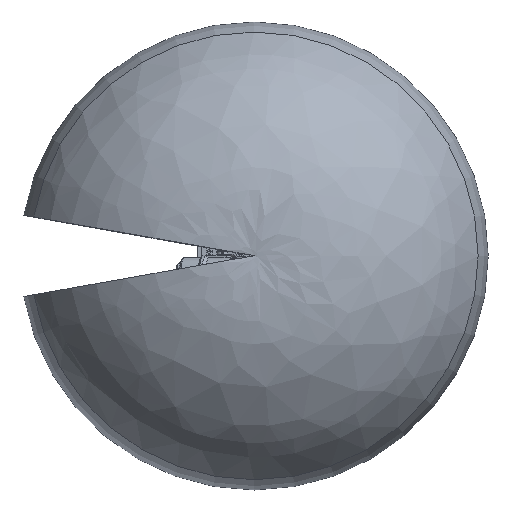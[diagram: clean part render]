
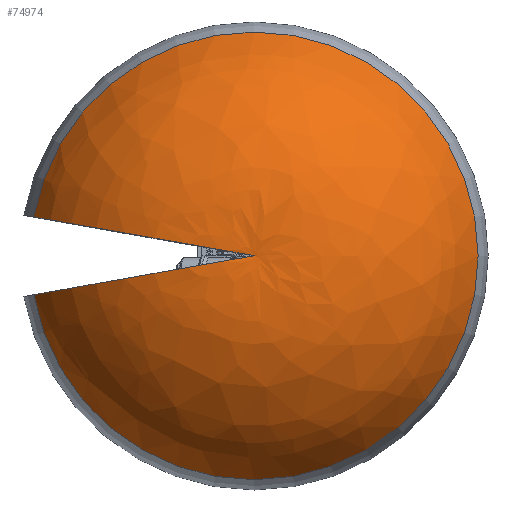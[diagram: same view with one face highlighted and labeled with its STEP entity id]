
A CAD part, top view. The second image highlights one B-rep face of the part: STEP entity #74974.
In plain terms, the highlighted free-form (B-spline) face has degree [2, 2] with [3, 9] control points.
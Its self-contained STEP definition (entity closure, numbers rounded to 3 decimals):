
#21589=FACE_OUTER_BOUND('',#26194,.T.);
#26194=EDGE_LOOP('',(#52895,#52896,#52897));
#32029=CIRCLE('',#79913,2501.47);
#32030=CIRCLE('',#79914,2373.884);
#32031=CIRCLE('',#79915,2373.884);
#34334=VERTEX_POINT('',#107904);
#34335=VERTEX_POINT('',#107905);
#34336=VERTEX_POINT('',#107907);
#41911=EDGE_CURVE('',#34334,#34335,#32029,.T.);
#41912=EDGE_CURVE('',#34336,#34335,#32030,.T.);
#41913=EDGE_CURVE('',#34336,#34334,#32031,.T.);
#52895=ORIENTED_EDGE('',*,*,#41911,.T.);
#52896=ORIENTED_EDGE('',*,*,#41912,.F.);
#52897=ORIENTED_EDGE('',*,*,#41913,.T.);
#74863=(
BOUNDED_SURFACE()
B_SPLINE_SURFACE(2,2,((#107877,#107878,#107879,#107880,#107881,#107882,
#107883,#107884,#107885),(#107886,#107887,#107888,#107889,#107890,#107891,
#107892,#107893,#107894),(#107895,#107896,#107897,#107898,#107899,#107900,
#107901,#107902,#107903)),.UNSPECIFIED.,.F.,.F.,.F.)
B_SPLINE_SURFACE_WITH_KNOTS((3,3),(3,2,2,2,3),(0.436,1.719),
(-2.967,-1.484,0.,1.484,
2.967),.UNSPECIFIED.)
GEOMETRIC_REPRESENTATION_ITEM()
RATIONAL_B_SPLINE_SURFACE(((1.,0.737,1.,0.737,1.,
0.737,1.,0.737,1.),(0.801,0.591,
0.801,0.591,0.801,0.591,
0.801,0.591,0.801),(1.,0.737,
1.,0.737,1.,0.737,1.,0.737,1.)))
REPRESENTATION_ITEM('')
SURFACE()
);
#74974=ADVANCED_FACE('',(#21589),#74863,.F.);
#79913=AXIS2_PLACEMENT_3D('',#107906,#87008,#87009);
#79914=AXIS2_PLACEMENT_3D('',#107908,#87010,#87011);
#79915=AXIS2_PLACEMENT_3D('',#107909,#87012,#87013);
#87008=DIRECTION('center_axis',(0.,0.,1.));
#87009=DIRECTION('ref_axis',(1.,0.,0.));
#87010=DIRECTION('center_axis',(-0.174,-0.985,0.));
#87011=DIRECTION('ref_axis',(0.,0.,1.));
#87012=DIRECTION('center_axis',(0.174,-0.985,0.));
#87013=DIRECTION('ref_axis',(0.,0.,1.));
#107877=CARTESIAN_POINT('Ctrl Pts',(-2463.467,-434.376,
1833.247));
#107878=CARTESIAN_POINT('Ctrl Pts',(-2065.435,-2691.727,
1833.247));
#107879=CARTESIAN_POINT('Ctrl Pts',(218.017,-2491.951,
1833.247));
#107880=CARTESIAN_POINT('Ctrl Pts',(2501.47,-2292.175,
1833.247));
#107881=CARTESIAN_POINT('Ctrl Pts',(2501.47,0.,1833.247));
#107882=CARTESIAN_POINT('Ctrl Pts',(2501.47,2292.175,1833.247));
#107883=CARTESIAN_POINT('Ctrl Pts',(218.017,2491.951,1833.247));
#107884=CARTESIAN_POINT('Ctrl Pts',(-2065.435,2691.727,
1833.247));
#107885=CARTESIAN_POINT('Ctrl Pts',(-2463.467,434.376,
1833.247));
#107886=CARTESIAN_POINT('Ctrl Pts',(-1725.977,-304.336,
3439.196));
#107887=CARTESIAN_POINT('Ctrl Pts',(-1447.104,-1885.903,
3439.196));
#107888=CARTESIAN_POINT('Ctrl Pts',(152.749,-1745.934,
3439.196));
#107889=CARTESIAN_POINT('Ctrl Pts',(1752.603,-1605.965,
3439.196));
#107890=CARTESIAN_POINT('Ctrl Pts',(1752.603,0.,3439.196));
#107891=CARTESIAN_POINT('Ctrl Pts',(1752.603,1605.965,3439.196));
#107892=CARTESIAN_POINT('Ctrl Pts',(152.749,1745.934,3439.196));
#107893=CARTESIAN_POINT('Ctrl Pts',(-1447.104,1885.903,
3439.196));
#107894=CARTESIAN_POINT('Ctrl Pts',(-1725.977,304.336,
3439.196));
#107895=CARTESIAN_POINT('Ctrl Pts',(0.,0.,
3177.941));
#107896=CARTESIAN_POINT('Ctrl Pts',(0.,0.,
3177.941));
#107897=CARTESIAN_POINT('Ctrl Pts',(0.,0.,
3177.941));
#107898=CARTESIAN_POINT('Ctrl Pts',(0.,0.,
3177.941));
#107899=CARTESIAN_POINT('Ctrl Pts',(0.,0.,3177.941));
#107900=CARTESIAN_POINT('Ctrl Pts',(0.,0.,
3177.941));
#107901=CARTESIAN_POINT('Ctrl Pts',(0.,0.,
3177.941));
#107902=CARTESIAN_POINT('Ctrl Pts',(0.,0.,
3177.941));
#107903=CARTESIAN_POINT('Ctrl Pts',(0.,0.,
3177.941));
#107904=CARTESIAN_POINT('',(-2463.467,-434.376,1833.247));
#107905=CARTESIAN_POINT('',(-2463.467,434.376,1833.247));
#107906=CARTESIAN_POINT('Origin',(0.,0.,1833.247));
#107907=CARTESIAN_POINT('',(0.,0.,
3177.941));
#107908=CARTESIAN_POINT('Origin',(-344.683,60.777,830.));
#107909=CARTESIAN_POINT('Origin',(-344.683,-60.777,830.));
